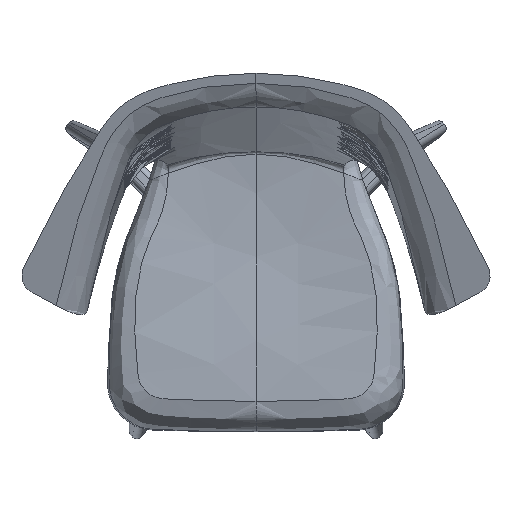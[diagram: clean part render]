
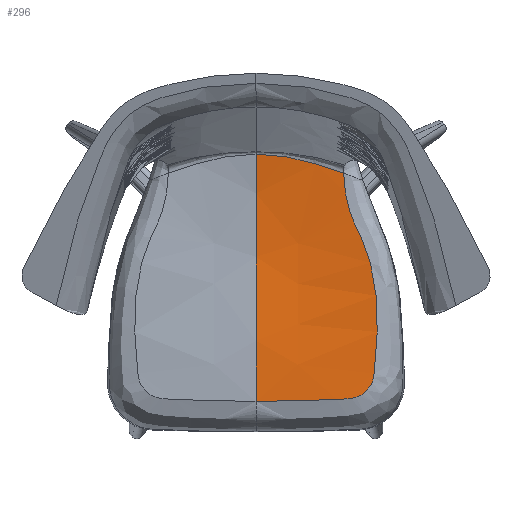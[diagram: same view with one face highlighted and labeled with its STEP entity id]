
A CAD part, top view. The second image highlights one B-rep face of the part: STEP entity #296.
In plain terms, the highlighted free-form (B-spline) face has degree [3, 3] with [8, 7] control points.
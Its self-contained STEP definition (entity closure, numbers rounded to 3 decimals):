
#20=B_SPLINE_SURFACE_WITH_KNOTS('',3,3,((#16962,#16963,#16964,#16965,#16966,
#16967,#16968),(#16969,#16970,#16971,#16972,#16973,#16974,#16975),(#16976,
#16977,#16978,#16979,#16980,#16981,#16982),(#16983,#16984,#16985,#16986,
#16987,#16988,#16989),(#16990,#16991,#16992,#16993,#16994,#16995,#16996),
(#16997,#16998,#16999,#17000,#17001,#17002,#17003),(#17004,#17005,#17006,
#17007,#17008,#17009,#17010),(#17011,#17012,#17013,#17014,#17015,#17016,
#17017)),.UNSPECIFIED.,.F.,.F.,.F.,(4,1,1,1,1,4),(4,1,1,1,4),(-50.039,
60.518,121.036,181.555,242.073,402.703),
(-100.033,62.213,124.426,186.64,248.854),
 .UNSPECIFIED.);
#296=ADVANCED_FACE('',(#563),#20,.T.);
#563=FACE_OUTER_BOUND('',#838,.T.);
#838=EDGE_LOOP('',(#2082,#2083,#2084));
#2082=ORIENTED_EDGE('',*,*,#2881,.F.);
#2083=ORIENTED_EDGE('',*,*,#2879,.T.);
#2084=ORIENTED_EDGE('',*,*,#2877,.F.);
#2877=EDGE_CURVE('',#4054,#4053,#3170,.T.);
#2879=EDGE_CURVE('',#4056,#4053,#3172,.T.);
#2881=EDGE_CURVE('',#4056,#4054,#3174,.T.);
#3170=B_SPLINE_CURVE_WITH_KNOTS('',3,(#20655,#20656,#20657,#20658,#20659,
#20660,#20661,#20662),.UNSPECIFIED.,.F.,.F.,(4,1,1,1,1,4),(0.,26.88,
53.76,80.64,107.521,134.401),
 .UNSPECIFIED.);
#3172=B_SPLINE_CURVE_WITH_KNOTS('',3,(#20671,#20672,#20673,#20674,#20675,
#20676,#20677,#20678,#20679,#20680,#20681,#20682,#20683,#20684,#20685,#20686,
#20687,#20688,#20689,#20690,#20691,#20692,#20693,#20694,#20695,#20696,#20697,
#20698,#20699,#20700),.UNSPECIFIED.,.F.,.F.,(4,1,1,1,1,1,1,1,1,1,1,1,1,
1,1,1,1,1,1,1,1,1,1,1,1,1,1,4),(-596.85,-571.985,-547.119,
-522.254,-497.388,-472.523,-460.688,
-448.853,-437.018,-425.183,-413.348,
-397.729,-382.109,-366.49,-350.87,
-335.251,-319.631,-304.012,-288.393,
-261.746,-235.1,-208.453,-181.807,
-155.16,-128.514,-101.867,-67.912,
-56.583),.UNSPECIFIED.);
#3174=B_SPLINE_CURVE_WITH_KNOTS('',3,(#20707,#20708,#20709,#20710,#20711,
#20712,#20713,#20714,#20715,#20716,#20717),.UNSPECIFIED.,.F.,.F.,(4,1,1,
1,1,3,4),(308.244,363.199,423.806,484.414,
545.021,605.629,934.573),.UNSPECIFIED.);
#4053=VERTEX_POINT('',#20256);
#4054=VERTEX_POINT('',#20257);
#4056=VERTEX_POINT('',#20259);
#16962=CARTESIAN_POINT('',(573.5,-1.164,465.251));
#16963=CARTESIAN_POINT('',(519.231,-0.898,460.342));
#16964=CARTESIAN_POINT('',(444.462,-0.658,455.847));
#16965=CARTESIAN_POINT('',(349.042,-0.588,454.508));
#16966=CARTESIAN_POINT('',(286.938,-0.634,455.379));
#16967=CARTESIAN_POINT('',(245.495,-0.721,457.02));
#16968=CARTESIAN_POINT('',(224.761,-0.779,458.096));
#16969=CARTESIAN_POINT('',(573.32,36.468,459.463));
#16970=CARTESIAN_POINT('',(519.225,36.111,460.759));
#16971=CARTESIAN_POINT('',(444.491,35.795,461.901));
#16972=CARTESIAN_POINT('',(349.042,35.708,462.197));
#16973=CARTESIAN_POINT('',(286.922,35.764,462.003));
#16974=CARTESIAN_POINT('',(245.481,35.878,461.593));
#16975=CARTESIAN_POINT('',(224.761,35.954,461.319));
#16976=CARTESIAN_POINT('',(573.042,92.351,454.652));
#16977=CARTESIAN_POINT('',(519.215,92.751,458.724));
#16978=CARTESIAN_POINT('',(444.536,93.096,462.563));
#16979=CARTESIAN_POINT('',(349.041,93.188,463.72));
#16980=CARTESIAN_POINT('',(286.896,93.128,462.964));
#16981=CARTESIAN_POINT('',(245.461,93.004,461.558));
#16982=CARTESIAN_POINT('',(224.76,92.921,460.643));
#16983=CARTESIAN_POINT('',(572.665,169.394,459.367));
#16984=CARTESIAN_POINT('',(519.202,169.726,457.04));
#16985=CARTESIAN_POINT('',(444.598,170.,455.554));
#16986=CARTESIAN_POINT('',(349.04,170.068,455.388));
#16987=CARTESIAN_POINT('',(286.861,170.024,455.491));
#16988=CARTESIAN_POINT('',(245.432,169.927,455.976));
#16989=CARTESIAN_POINT('',(224.76,169.86,456.353));
#16990=CARTESIAN_POINT('',(572.37,230.437,464.779));
#16991=CARTESIAN_POINT('',(519.192,230.306,455.816));
#16992=CARTESIAN_POINT('',(444.646,230.162,448.724));
#16993=CARTESIAN_POINT('',(349.039,230.109,447.125));
#16994=CARTESIAN_POINT('',(286.834,230.143,448.16));
#16995=CARTESIAN_POINT('',(245.411,230.198,450.643));
#16996=CARTESIAN_POINT('',(224.759,230.232,452.378));
#16997=CARTESIAN_POINT('',(571.911,323.533,471.61));
#16998=CARTESIAN_POINT('',(519.176,323.767,455.705));
#16999=CARTESIAN_POINT('',(444.721,323.932,442.88));
#17000=CARTESIAN_POINT('',(349.037,323.959,439.878));
#17001=CARTESIAN_POINT('',(286.793,323.942,441.823));
#17002=CARTESIAN_POINT('',(245.376,323.886,446.337));
#17003=CARTESIAN_POINT('',(224.759,323.845,449.465));
#17004=CARTESIAN_POINT('',(571.552,396.417,469.101));
#17005=CARTESIAN_POINT('',(519.163,397.278,456.347));
#17006=CARTESIAN_POINT('',(444.779,397.987,446.618));
#17007=CARTESIAN_POINT('',(349.036,398.16,444.621));
#17008=CARTESIAN_POINT('',(286.759,398.048,445.91));
#17009=CARTESIAN_POINT('',(245.349,397.797,449.277));
#17010=CARTESIAN_POINT('',(224.758,397.624,451.67));
#17011=CARTESIAN_POINT('',(571.291,450.592,455.273));
#17012=CARTESIAN_POINT('',(519.154,450.69,454.111));
#17013=CARTESIAN_POINT('',(444.822,450.717,454.852));
#17014=CARTESIAN_POINT('',(349.035,450.698,455.863));
#17015=CARTESIAN_POINT('',(286.735,450.711,455.192));
#17016=CARTESIAN_POINT('',(245.33,450.706,454.759));
#17017=CARTESIAN_POINT('',(224.758,450.698,454.641));
#20256=CARTESIAN_POINT('',(479.791,395.286,452.703));
#20257=CARTESIAN_POINT('',(349.046,423.715,450.854));
#20259=CARTESIAN_POINT('',(349.046,54.757,461.394));
#20655=CARTESIAN_POINT('',(349.046,423.715,450.854));
#20656=CARTESIAN_POINT('',(358.009,423.715,450.855));
#20657=CARTESIAN_POINT('',(375.948,422.713,450.703));
#20658=CARTESIAN_POINT('',(402.546,418.468,450.371));
#20659=CARTESIAN_POINT('',(428.684,412.008,450.311));
#20660=CARTESIAN_POINT('',(454.393,404.013,450.918));
#20661=CARTESIAN_POINT('',(471.379,398.322,452.005));
#20662=CARTESIAN_POINT('',(479.791,395.286,452.703));
#20671=CARTESIAN_POINT('',(349.046,54.757,461.394));
#20672=CARTESIAN_POINT('',(357.337,54.757,461.394));
#20673=CARTESIAN_POINT('',(373.941,54.841,461.374));
#20674=CARTESIAN_POINT('',(398.713,55.227,461.283));
#20675=CARTESIAN_POINT('',(423.857,55.864,461.118));
#20676=CARTESIAN_POINT('',(447.661,56.757,460.896));
#20677=CARTESIAN_POINT('',(471.418,57.644,460.566));
#20678=CARTESIAN_POINT('',(481.171,58.062,460.406));
#20679=CARTESIAN_POINT('',(489.419,58.892,460.26));
#20680=CARTESIAN_POINT('',(497.219,60.457,460.096));
#20681=CARTESIAN_POINT('',(504.864,63.581,459.877));
#20682=CARTESIAN_POINT('',(511.716,68.094,459.613));
#20683=CARTESIAN_POINT('',(520.594,78.388,459.07));
#20684=CARTESIAN_POINT('',(524.992,91.03,458.558));
#20685=CARTESIAN_POINT('',(525.955,104.539,458.204));
#20686=CARTESIAN_POINT('',(527.333,117.892,457.938));
#20687=CARTESIAN_POINT('',(528.596,131.32,457.79));
#20688=CARTESIAN_POINT('',(529.373,144.706,457.747));
#20689=CARTESIAN_POINT('',(529.869,158.316,457.785));
#20690=CARTESIAN_POINT('',(530.103,174.19,457.885));
#20691=CARTESIAN_POINT('',(529.454,198.7,458.074));
#20692=CARTESIAN_POINT('',(527.024,224.837,458.132));
#20693=CARTESIAN_POINT('',(522.548,251.281,457.839));
#20694=CARTESIAN_POINT('',(515.332,276.949,456.913));
#20695=CARTESIAN_POINT('',(505.501,301.799,455.347));
#20696=CARTESIAN_POINT('',(492.818,325.25,453.35));
#20697=CARTESIAN_POINT('',(484.183,353.272,452.287));
#20698=CARTESIAN_POINT('',(480.468,376.656,452.266));
#20699=CARTESIAN_POINT('',(479.843,391.555,452.602));
#20700=CARTESIAN_POINT('',(479.791,395.286,452.703));
#20707=CARTESIAN_POINT('',(349.046,54.757,461.394));
#20708=CARTESIAN_POINT('',(349.046,73.051,462.231));
#20709=CARTESIAN_POINT('',(349.046,111.654,461.534));
#20710=CARTESIAN_POINT('',(349.046,170.053,455.423));
#20711=CARTESIAN_POINT('',(349.046,230.121,447.471));
#20712=CARTESIAN_POINT('',(349.046,290.603,442.996));
#20713=CARTESIAN_POINT('',(349.046,331.073,443.));
#20714=CARTESIAN_POINT('',(349.046,351.262,443.859));
#20715=CARTESIAN_POINT('',(349.046,375.528,444.891));
#20716=CARTESIAN_POINT('',(349.046,399.727,447.159));
#20717=CARTESIAN_POINT('',(349.046,423.715,450.854));
